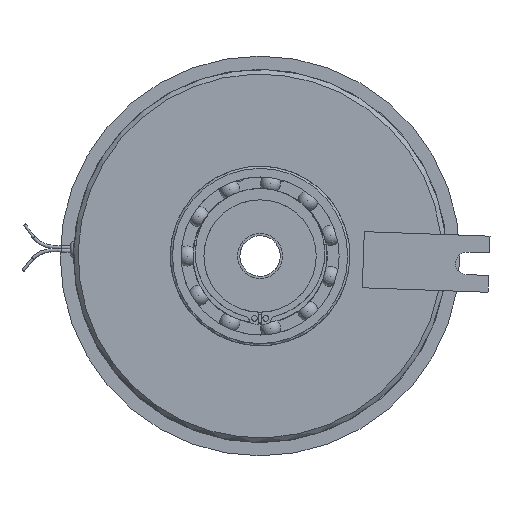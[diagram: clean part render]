
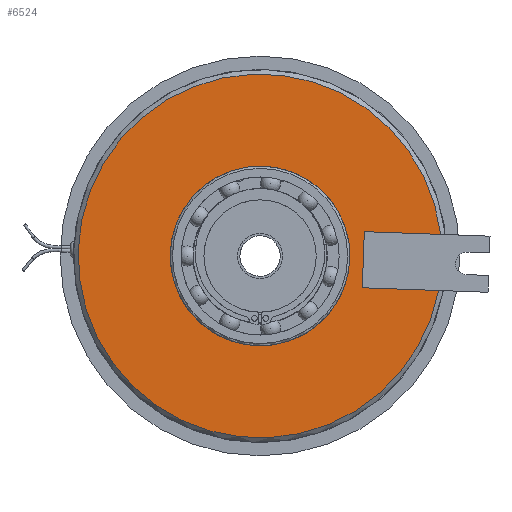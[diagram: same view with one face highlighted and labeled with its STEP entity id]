
A CAD part, left-side view. The second image highlights one B-rep face of the part: STEP entity #6524.
In plain terms, the highlighted planar face has unit normal (-1, 0, 0).
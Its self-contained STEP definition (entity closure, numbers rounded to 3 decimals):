
#152=FACE_BOUND('',#1163,.T.);
#305=PLANE('',#7196);
#752=FACE_OUTER_BOUND('',#1162,.T.);
#1162=EDGE_LOOP('',(#5183,#5184,#5185,#5186,#5187));
#1163=EDGE_LOOP('',(#5188));
#1848=CIRCLE('',#7197,81.);
#1849=CIRCLE('',#7198,81.);
#1850=CIRCLE('',#7199,40.);
#2269=LINE('',#10946,#2539);
#2270=LINE('',#10952,#2540);
#2271=LINE('',#10953,#2541);
#2539=VECTOR('',#8757,10.);
#2540=VECTOR('',#8762,10.);
#2541=VECTOR('',#8763,10.);
#2930=VERTEX_POINT('',#10944);
#2931=VERTEX_POINT('',#10945);
#2932=VERTEX_POINT('',#10947);
#2933=VERTEX_POINT('',#10949);
#2934=VERTEX_POINT('',#10951);
#2935=VERTEX_POINT('',#10954);
#3755=EDGE_CURVE('',#2930,#2931,#2269,.T.);
#3756=EDGE_CURVE('',#2932,#2931,#1848,.T.);
#3757=EDGE_CURVE('',#2933,#2932,#1849,.T.);
#3758=EDGE_CURVE('',#2933,#2934,#2270,.T.);
#3759=EDGE_CURVE('',#2934,#2930,#2271,.T.);
#3760=EDGE_CURVE('',#2935,#2935,#1850,.T.);
#5183=ORIENTED_EDGE('',*,*,#3755,.T.);
#5184=ORIENTED_EDGE('',*,*,#3756,.F.);
#5185=ORIENTED_EDGE('',*,*,#3757,.F.);
#5186=ORIENTED_EDGE('',*,*,#3758,.T.);
#5187=ORIENTED_EDGE('',*,*,#3759,.T.);
#5188=ORIENTED_EDGE('',*,*,#3760,.F.);
#6524=ADVANCED_FACE('',(#752,#152),#305,.T.);
#7196=AXIS2_PLACEMENT_3D('',#10943,#8755,#8756);
#7197=AXIS2_PLACEMENT_3D('',#10948,#8758,#8759);
#7198=AXIS2_PLACEMENT_3D('',#10950,#8760,#8761);
#7199=AXIS2_PLACEMENT_3D('',#10955,#8764,#8765);
#8755=DIRECTION('center_axis',(-1.,0.,0.));
#8756=DIRECTION('ref_axis',(0.,-0.036,0.999));
#8757=DIRECTION('',(0.,-0.999,-0.036));
#8758=DIRECTION('center_axis',(1.,0.,0.));
#8759=DIRECTION('ref_axis',(0.,-0.999,-0.036));
#8760=DIRECTION('center_axis',(1.,0.,0.));
#8761=DIRECTION('ref_axis',(0.,-0.999,-0.036));
#8762=DIRECTION('',(0.,0.999,0.036));
#8763=DIRECTION('',(0.,-0.036,0.999));
#8764=DIRECTION('center_axis',(-1.,0.,0.));
#8765=DIRECTION('ref_axis',(0.,0.999,0.036));
#10943=CARTESIAN_POINT('Origin',(-20.,42.473,1.522));
#10944=CARTESIAN_POINT('',(-20.,-46.418,10.845));
#10945=CARTESIAN_POINT('',(-20.,-80.426,9.626));
#10946=CARTESIAN_POINT('',(-20.,-2.196,12.429));
#10947=CARTESIAN_POINT('',(-20.,80.948,2.9));
#10948=CARTESIAN_POINT('Origin',(-20.,0.,0.));
#10949=CARTESIAN_POINT('',(-20.,-79.531,-15.358));
#10950=CARTESIAN_POINT('Origin',(-20.,0.,0.));
#10951=CARTESIAN_POINT('',(-20.,-45.523,-14.139));
#10952=CARTESIAN_POINT('',(-20.,-29.283,-13.557));
#10953=CARTESIAN_POINT('',(-20.,-45.747,-7.893));
#10954=CARTESIAN_POINT('',(-20.,-39.974,-1.432));
#10955=CARTESIAN_POINT('Origin',(-20.,0.,0.));
